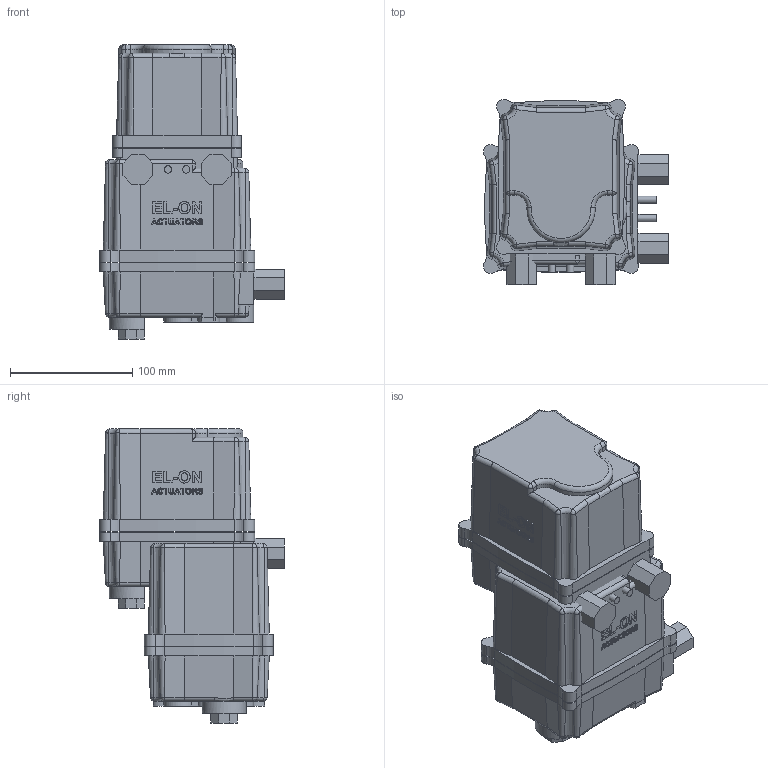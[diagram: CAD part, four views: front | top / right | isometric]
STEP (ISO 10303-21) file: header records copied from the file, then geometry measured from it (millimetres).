
FILE_DESCRIPTION( ( 'Unknown' ), '1' );
FILE_NAME( 'J:/Muud/ROOTSI BPS 3D vidinad/Kuulkraanid/Roostevaba kuulkraanid/Ball valve BPS 2420/Ball valve with electric actuator BPS/STEP formaat/BPS 2420020E ball valve DN20.stp', 'Unknown', ( 'Unknown' ), ( 'Unknown' ), 'PSStep 10.1', 'Unknown', ' ' );
FILE_SCHEMA( ( 'AUTOMOTIVE_DESIGN { 1 0 10303 214 1 1 1 1 }' ) );
Length unit declared in the file: millimetre
Products named in the file (4): Assem1; BPS 2420020 ball valve DN20; BPS 8005058 electric actuator DN40-100
Bounding box: 151.5 x 151.5 x 241 mm (x, y, z)
Volume: 3139422.1 mm3; surface area: 293708.5 mm2
Topology: 6 solids, 6 shells, 1304 faces, 3344 edges, 2174 vertices
Faces by surface type: plane 580, cylinder 314, extrusion 190, bspline 116, cone 82, torus 22
Full cylindrical faces by diameter (mm): 4.134 x16, 4.917 x8, 6 x28, 6.647 x8, 20 x2, 21 x2, 24.117 x4, 31 x2, 42 x2
Entity records: 33228 total; most frequent: CARTESIAN_POINT 13317, ORIENTED_EDGE 3118, DIRECTION 2574, EDGE_CURVE 1559, VERTEX_POINT 1063, VECTOR 880, AXIS2_PLACEMENT_3D 847, EDGE_LOOP 804
